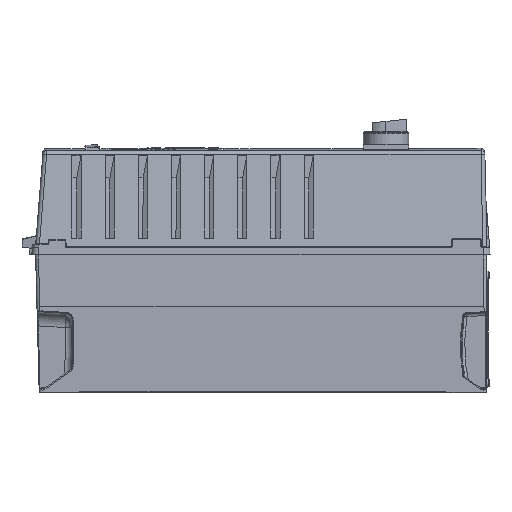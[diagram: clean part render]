
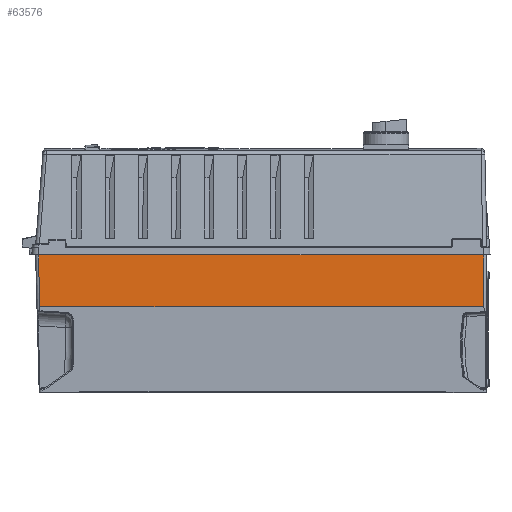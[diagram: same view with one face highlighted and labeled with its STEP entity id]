
A CAD part, left-side view. The second image highlights one B-rep face of the part: STEP entity #63576.
In plain terms, the highlighted planar face has unit normal (-1, 0, 0.024).
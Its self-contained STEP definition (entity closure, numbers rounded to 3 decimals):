
#1197=DIRECTION('',(0.,1.,0.));
#1198=VECTOR('',#1197,469.893);
#1199=CARTESIAN_POINT('',(-119.097,-235.,
-1.979));
#1200=LINE('',#1199,#1198);
#1434=CARTESIAN_POINT('',(-120.515,233.374,
-60.));
#1436=DIRECTION('',(0.,-1.,0.));
#1437=VECTOR('',#1436,468.374);
#1438=CARTESIAN_POINT('',(-120.515,233.374,
-60.));
#1439=LINE('',#1438,#1437);
#2459=DIRECTION('',(0.024,0.,1.));
#2460=VECTOR('',#2459,58.039);
#2461=CARTESIAN_POINT('',(-120.515,-235.,
-60.));
#2462=LINE('',#2461,#2460);
#2463=DIRECTION('',(0.024,0.026,0.999));
#2464=VECTOR('',#2463,58.059);
#2465=CARTESIAN_POINT('',(-120.515,233.374,
-60.));
#2466=LINE('',#2465,#2464);
#50203=CARTESIAN_POINT('',(-119.097,234.893,
-1.979));
#50204=VERTEX_POINT('',#50203);
#50205=CARTESIAN_POINT('',(-119.097,-235.,
-1.979));
#50206=VERTEX_POINT('',#50205);
#50752=VERTEX_POINT('',#1434);
#50753=CARTESIAN_POINT('',(-120.515,-235.,
-60.));
#50754=VERTEX_POINT('',#50753);
#63565=CARTESIAN_POINT('',(-120.515,-238.,-60.));
#63566=DIRECTION('',(-1.,0.,0.024));
#63567=DIRECTION('',(0.024,0.,1.));
#63568=AXIS2_PLACEMENT_3D('',#63565,#63566,#63567);
#63569=PLANE('',#63568);
#63570=ORIENTED_EDGE('',*,*,#61380,.F.);
#63571=ORIENTED_EDGE('',*,*,#63558,.F.);
#63572=ORIENTED_EDGE('',*,*,#61768,.F.);
#63573=ORIENTED_EDGE('',*,*,#61658,.T.);
#63574=EDGE_LOOP('',(#63570,#63571,#63572,#63573));
#63575=FACE_OUTER_BOUND('',#63574,.F.);
#61380=EDGE_CURVE('',#50206,#50204,#1200,.T.);
#61658=EDGE_CURVE('',#50752,#50204,#2466,.T.);
#61768=EDGE_CURVE('',#50752,#50754,#1439,.T.);
#63558=EDGE_CURVE('',#50754,#50206,#2462,.T.);
#63576=ADVANCED_FACE('',(#63575),#63569,.T.);
